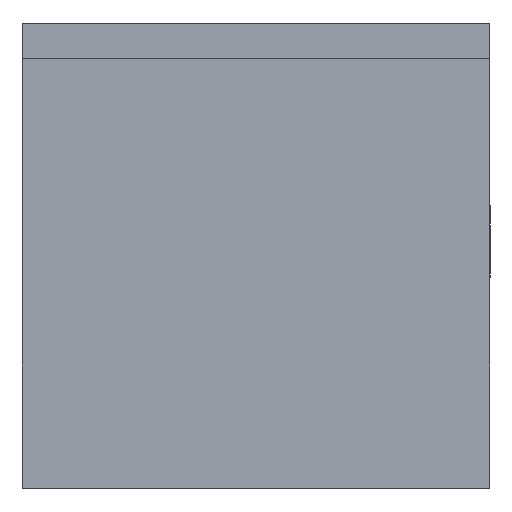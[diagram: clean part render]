
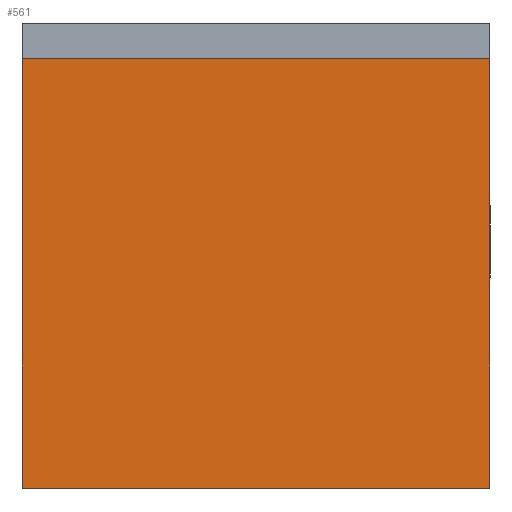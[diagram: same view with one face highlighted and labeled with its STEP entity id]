
A CAD part, top view. The second image highlights one B-rep face of the part: STEP entity #561.
In plain terms, the highlighted planar face has unit normal (0, 0, 1).
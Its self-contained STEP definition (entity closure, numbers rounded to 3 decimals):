
#49=FACE_OUTER_BOUND('',#82,.T.);
#82=EDGE_LOOP('',(#460,#461,#462,#463));
#133=LINE('',#863,#202);
#147=LINE('',#890,#216);
#148=LINE('',#892,#217);
#149=LINE('',#893,#218);
#202=VECTOR('',#709,10.);
#216=VECTOR('',#731,10.);
#217=VECTOR('',#734,10.);
#218=VECTOR('',#735,10.);
#264=VERTEX_POINT('',#860);
#265=VERTEX_POINT('',#862);
#273=VERTEX_POINT('',#886);
#274=VERTEX_POINT('',#888);
#327=EDGE_CURVE('',#264,#265,#133,.T.);
#341=EDGE_CURVE('',#273,#274,#147,.T.);
#342=EDGE_CURVE('',#273,#264,#148,.T.);
#343=EDGE_CURVE('',#265,#274,#149,.T.);
#460=ORIENTED_EDGE('',*,*,#342,.F.);
#461=ORIENTED_EDGE('',*,*,#341,.T.);
#462=ORIENTED_EDGE('',*,*,#343,.F.);
#463=ORIENTED_EDGE('',*,*,#327,.F.);
#530=PLANE('',#615);
#561=ADVANCED_FACE('',(#49),#530,.T.);
#615=AXIS2_PLACEMENT_3D('',#891,#732,#733);
#709=DIRECTION('',(1.,0.,0.));
#731=DIRECTION('',(1.,0.,0.));
#732=DIRECTION('center_axis',(0.,0.,1.));
#733=DIRECTION('ref_axis',(0.,-1.,0.));
#734=DIRECTION('',(0.,1.,0.));
#735=DIRECTION('',(0.,-1.,0.));
#860=CARTESIAN_POINT('',(-32.504,46.,9.));
#862=CARTESIAN_POINT('',(-12.629,46.,9.));
#863=CARTESIAN_POINT('',(-32.504,46.,9.));
#886=CARTESIAN_POINT('',(-32.504,27.75,9.));
#888=CARTESIAN_POINT('',(-12.629,27.75,9.));
#890=CARTESIAN_POINT('',(-32.504,27.75,9.));
#891=CARTESIAN_POINT('Origin',(-32.504,46.,9.));
#892=CARTESIAN_POINT('',(-32.504,27.75,9.));
#893=CARTESIAN_POINT('',(-12.629,27.75,9.));
